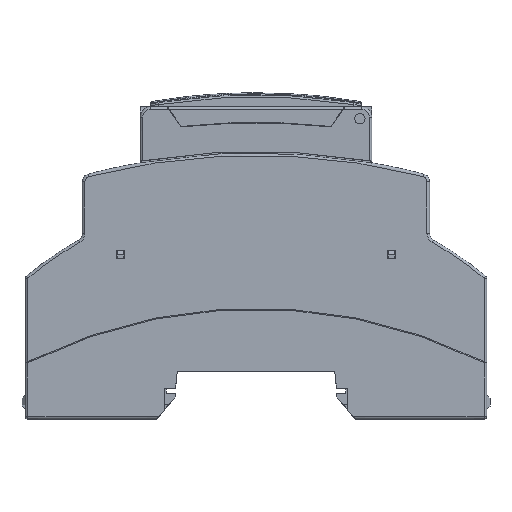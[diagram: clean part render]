
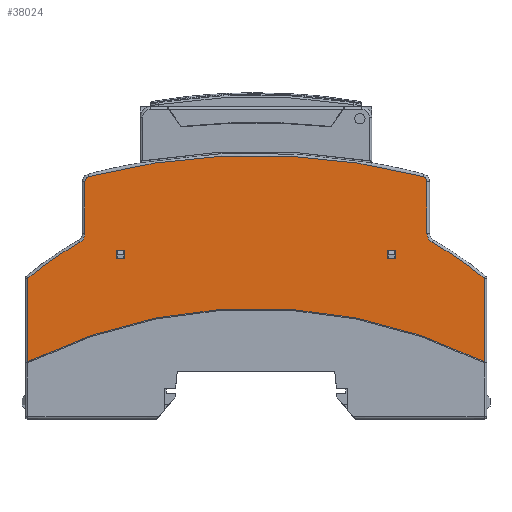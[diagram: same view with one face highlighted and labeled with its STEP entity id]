
A CAD part, left-side view. The second image highlights one B-rep face of the part: STEP entity #38024.
In plain terms, the highlighted planar face has unit normal (-1, 0, 0) as drawn and (1, 0, 0) by its records, which use the part's own axes.
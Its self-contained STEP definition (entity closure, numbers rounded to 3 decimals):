
#716=FACE_BOUND('',#14469,.T.);
#717=FACE_BOUND('',#14470,.T.);
#1073=LINE('',#53111,#5855);
#1535=LINE('',#54452,#6317);
#1611=LINE('',#54719,#6393);
#1614=LINE('',#54724,#6396);
#1616=LINE('',#54728,#6398);
#1617=LINE('',#54730,#6399);
#1626=LINE('',#54752,#6408);
#1674=LINE('',#54883,#6456);
#1675=LINE('',#54887,#6457);
#1676=LINE('',#54889,#6458);
#1677=LINE('',#54891,#6459);
#1678=LINE('',#54892,#6460);
#5855=VECTOR('',#42840,1.);
#6317=VECTOR('',#43764,1.);
#6393=VECTOR('',#43940,1.);
#6396=VECTOR('',#43945,1.);
#6398=VECTOR('',#43949,1.);
#6399=VECTOR('',#43952,1.);
#6408=VECTOR('',#43977,1.);
#6456=VECTOR('',#44133,1.);
#6457=VECTOR('',#44136,1.);
#6458=VECTOR('',#44137,1.);
#6459=VECTOR('',#44138,1.);
#6460=VECTOR('',#44139,1.);
#10768=PLANE('',#40392);
#12442=FACE_OUTER_BOUND('',#14468,.T.);
#14468=EDGE_LOOP('',(#27816,#27817,#27818,#27819,#27820,#27821,#27822,#27823,
#27824,#27825,#27826,#27827));
#14469=EDGE_LOOP('',(#27828,#27829,#27830,#27831));
#14470=EDGE_LOOP('',(#27832,#27833,#27834,#27835));
#16374=CIRCLE('',#40021,129.2);
#16418=CIRCLE('',#40112,99.5);
#16460=CIRCLE('',#40251,69.5);
#16462=CIRCLE('',#40256,2.);
#16481=CIRCLE('',#40341,1.);
#16483=CIRCLE('',#40344,2.);
#16485=CIRCLE('',#40347,69.5);
#16499=CIRCLE('',#40393,1.);
#17085=VERTEX_POINT('',#52953);
#17086=VERTEX_POINT('',#52955);
#17132=VERTEX_POINT('',#53108);
#17133=VERTEX_POINT('',#53110);
#17303=VERTEX_POINT('',#53510);
#17304=VERTEX_POINT('',#53560);
#17493=VERTEX_POINT('',#54317);
#17495=VERTEX_POINT('',#54325);
#17514=VERTEX_POINT('',#54451);
#17559=VERTEX_POINT('',#54716);
#17560=VERTEX_POINT('',#54718);
#17561=VERTEX_POINT('',#54722);
#17562=VERTEX_POINT('',#54726);
#17566=VERTEX_POINT('',#54749);
#17567=VERTEX_POINT('',#54751);
#17568=VERTEX_POINT('',#54757);
#17597=VERTEX_POINT('',#54885);
#17598=VERTEX_POINT('',#54886);
#17599=VERTEX_POINT('',#54888);
#17600=VERTEX_POINT('',#54890);
#20802=EDGE_CURVE('',#17086,#17085,#16374,.T.);
#20852=EDGE_CURVE('',#17132,#17133,#1073,.T.);
#21048=EDGE_CURVE('',#17304,#17303,#16418,.T.);
#21363=EDGE_CURVE('',#17493,#17495,#16460,.T.);
#21370=EDGE_CURVE('',#17133,#17495,#16462,.T.);
#21401=EDGE_CURVE('',#17304,#17514,#1535,.T.);
#21489=EDGE_CURVE('',#17560,#17559,#1611,.T.);
#21492=EDGE_CURVE('',#17561,#17560,#1614,.T.);
#21494=EDGE_CURVE('',#17559,#17562,#1616,.T.);
#21495=EDGE_CURVE('',#17562,#17561,#1617,.T.);
#21507=EDGE_CURVE('',#17567,#17566,#1626,.T.);
#21509=EDGE_CURVE('',#17085,#17567,#16481,.T.);
#21511=EDGE_CURVE('',#17566,#17568,#16483,.T.);
#21513=EDGE_CURVE('',#17514,#17568,#16485,.T.);
#21574=EDGE_CURVE('',#17303,#17493,#1674,.T.);
#21575=EDGE_CURVE('',#17086,#17132,#16499,.T.);
#21576=EDGE_CURVE('',#17597,#17598,#1675,.T.);
#21577=EDGE_CURVE('',#17599,#17597,#1676,.T.);
#21578=EDGE_CURVE('',#17599,#17600,#1677,.T.);
#21579=EDGE_CURVE('',#17600,#17598,#1678,.T.);
#27816=ORIENTED_EDGE('',*,*,#20802,.T.);
#27817=ORIENTED_EDGE('',*,*,#21509,.T.);
#27818=ORIENTED_EDGE('',*,*,#21507,.T.);
#27819=ORIENTED_EDGE('',*,*,#21511,.T.);
#27820=ORIENTED_EDGE('',*,*,#21513,.F.);
#27821=ORIENTED_EDGE('',*,*,#21401,.F.);
#27822=ORIENTED_EDGE('',*,*,#21048,.T.);
#27823=ORIENTED_EDGE('',*,*,#21574,.T.);
#27824=ORIENTED_EDGE('',*,*,#21363,.T.);
#27825=ORIENTED_EDGE('',*,*,#21370,.F.);
#27826=ORIENTED_EDGE('',*,*,#20852,.F.);
#27827=ORIENTED_EDGE('',*,*,#21575,.F.);
#27828=ORIENTED_EDGE('',*,*,#21494,.T.);
#27829=ORIENTED_EDGE('',*,*,#21495,.T.);
#27830=ORIENTED_EDGE('',*,*,#21492,.T.);
#27831=ORIENTED_EDGE('',*,*,#21489,.T.);
#27832=ORIENTED_EDGE('',*,*,#21576,.F.);
#27833=ORIENTED_EDGE('',*,*,#21577,.F.);
#27834=ORIENTED_EDGE('',*,*,#21578,.T.);
#27835=ORIENTED_EDGE('',*,*,#21579,.T.);
#38024=ADVANCED_FACE('',(#12442,#716,#717),#10768,.F.);
#40021=AXIS2_PLACEMENT_3D('',#52956,#42756,#42757);
#40112=AXIS2_PLACEMENT_3D('',#53561,#43135,#43136);
#40251=AXIS2_PLACEMENT_3D('',#54328,#43680,#43681);
#40256=AXIS2_PLACEMENT_3D('',#54341,#43695,#43696);
#40341=AXIS2_PLACEMENT_3D('',#54755,#43982,#43983);
#40344=AXIS2_PLACEMENT_3D('',#54759,#43988,#43989);
#40347=AXIS2_PLACEMENT_3D('',#54762,#43994,#43995);
#40392=AXIS2_PLACEMENT_3D('',#54882,#44131,#44132);
#40393=AXIS2_PLACEMENT_3D('',#54884,#44134,#44135);
#42756=DIRECTION('center_axis',(1.,0.,0.));
#42757=DIRECTION('ref_axis',(0.,-1.,0.));
#42840=DIRECTION('',(0.,0.,-1.));
#43135=DIRECTION('center_axis',(-1.,0.,0.));
#43136=DIRECTION('ref_axis',(0.,-1.,0.));
#43680=DIRECTION('center_axis',(1.,0.,0.));
#43681=DIRECTION('ref_axis',(0.,-1.,0.));
#43695=DIRECTION('center_axis',(1.,0.,0.));
#43696=DIRECTION('ref_axis',(0.,-1.,0.));
#43764=DIRECTION('',(0.,0.,1.));
#43940=DIRECTION('',(0.,0.,-1.));
#43945=DIRECTION('',(0.,1.,0.));
#43949=DIRECTION('',(0.,-1.,0.));
#43952=DIRECTION('',(0.,0.,1.));
#43977=DIRECTION('',(0.,0.,-1.));
#43982=DIRECTION('center_axis',(1.,0.,0.));
#43983=DIRECTION('ref_axis',(0.,-1.,0.));
#43988=DIRECTION('center_axis',(-1.,0.,0.));
#43989=DIRECTION('ref_axis',(0.,1.,0.));
#43994=DIRECTION('center_axis',(-1.,0.,0.));
#43995=DIRECTION('ref_axis',(0.,1.,0.));
#44131=DIRECTION('center_axis',(-1.,0.,0.));
#44132=DIRECTION('ref_axis',(0.,0.,1.));
#44133=DIRECTION('',(0.,0.,1.));
#44134=DIRECTION('center_axis',(-1.,0.,0.));
#44135=DIRECTION('ref_axis',(0.,1.,0.));
#44136=DIRECTION('',(0.,0.,-1.));
#44137=DIRECTION('',(0.,-1.,0.));
#44138=DIRECTION('',(0.,0.,-1.));
#44139=DIRECTION('',(0.,-1.,0.));
#52953=CARTESIAN_POINT('',(18.,-32.502,41.145));
#52955=CARTESIAN_POINT('',(18.,32.502,41.145));
#52956=CARTESIAN_POINT('Origin',(18.,0.,
-83.9));
#53108=CARTESIAN_POINT('',(18.,33.25,40.177));
#53110=CARTESIAN_POINT('',(18.,33.25,30.107));
#53111=CARTESIAN_POINT('',(18.,33.25,-3.25));
#53510=CARTESIAN_POINT('',(18.,44.35,5.169));
#53560=CARTESIAN_POINT('',(18.,-44.35,5.169));
#53561=CARTESIAN_POINT('Origin',(18.,0.,
-83.9));
#54317=CARTESIAN_POINT('',(18.,44.35,21.41));
#54325=CARTESIAN_POINT('',(18.,34.264,28.367));
#54328=CARTESIAN_POINT('Origin',(18.,0.,
-32.1));
#54341=CARTESIAN_POINT('Origin',(18.,35.25,30.107));
#54451=CARTESIAN_POINT('',(18.,-44.35,21.41));
#54452=CARTESIAN_POINT('',(18.,-44.35,-3.25));
#54716=CARTESIAN_POINT('',(18.,-25.65,25.15));
#54718=CARTESIAN_POINT('',(18.,-25.65,26.85));
#54719=CARTESIAN_POINT('',(18.,-25.65,-3.25));
#54722=CARTESIAN_POINT('',(18.,-27.05,26.85));
#54724=CARTESIAN_POINT('',(18.,5.5,26.85));
#54726=CARTESIAN_POINT('',(18.,-27.05,25.15));
#54728=CARTESIAN_POINT('',(18.,5.5,25.15));
#54730=CARTESIAN_POINT('',(18.,-27.05,-3.25));
#54749=CARTESIAN_POINT('',(18.,-33.25,30.107));
#54751=CARTESIAN_POINT('',(18.,-33.25,40.177));
#54752=CARTESIAN_POINT('',(18.,-33.25,-3.25));
#54755=CARTESIAN_POINT('Origin',(18.,-32.25,40.177));
#54757=CARTESIAN_POINT('',(18.,-34.264,28.367));
#54759=CARTESIAN_POINT('Origin',(18.,-35.25,30.107));
#54762=CARTESIAN_POINT('Origin',(18.,0.,
-32.1));
#54882=CARTESIAN_POINT('Origin',(18.,37.584,24.51));
#54883=CARTESIAN_POINT('',(18.,44.35,-3.25));
#54884=CARTESIAN_POINT('Origin',(18.,32.25,40.177));
#54885=CARTESIAN_POINT('',(18.,25.65,26.85));
#54886=CARTESIAN_POINT('',(18.,25.65,25.15));
#54887=CARTESIAN_POINT('',(18.,25.65,-3.25));
#54888=CARTESIAN_POINT('',(18.,27.05,26.85));
#54889=CARTESIAN_POINT('',(18.,5.5,26.85));
#54890=CARTESIAN_POINT('',(18.,27.05,25.15));
#54891=CARTESIAN_POINT('',(18.,27.05,-3.25));
#54892=CARTESIAN_POINT('',(18.,5.5,25.15));
